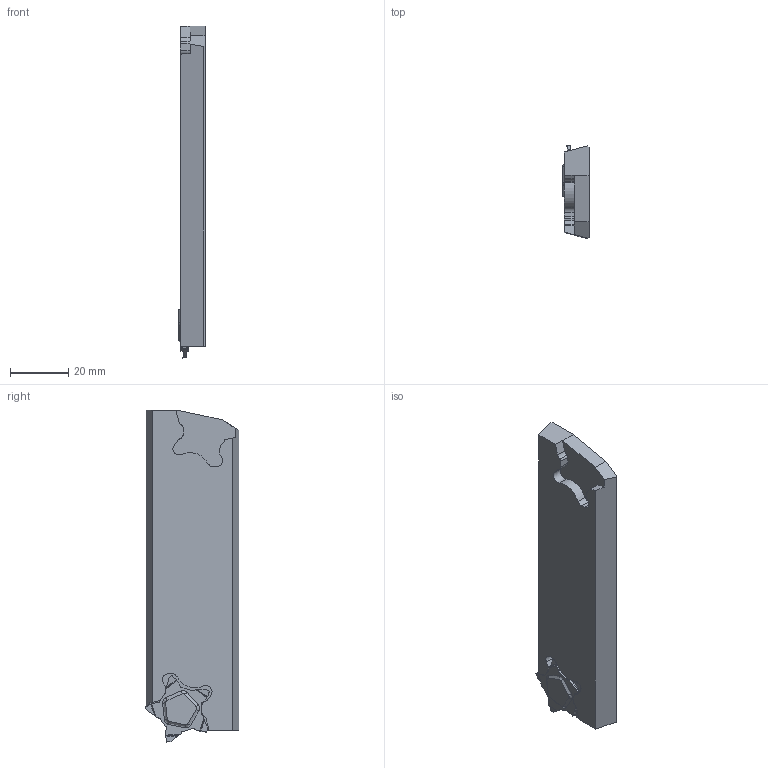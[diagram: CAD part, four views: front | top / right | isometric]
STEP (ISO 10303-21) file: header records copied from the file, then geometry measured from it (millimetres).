
FILE_DESCRIPTION(('CATIA V5 STEP','CAx-IF Rec.Pracs.--- Model Styling and Organization---1.2---2011-12-15'),'2;1');
FILE_NAME('I:\isr\design\admin8\users\farid_a\2301674.stp','2013-07-11T05:24:34+00:00',('none'),('none'),'CATIA Version 5 Release 21 SP 5 (IN-10)','CATIA V5 STEP AP214','none');
FILE_SCHEMA(('AUTOMOTIVE_DESIGN { 1 0 10303 214 1 1 1 1 }'));
Length unit declared in the file: millimetre
Products named in the file (1): 60957412_0  PCHBR 32-24L
Bounding box: 9 x 32.07 x 114 mm (x, y, z)
Volume: 26017.6 mm3; surface area: 9466.7 mm2
Topology: 2 solids, 2 shells, 219 faces, 798 edges, 585 vertices
Faces by surface type: plane 83, bspline 65, cylinder 51, revolution 20
Entity records: 25213 total; most frequent: CARTESIAN_POINT 19234, ORIENTED_EDGE 1576, EDGE_CURVE 788, DIRECTION 705, VERTEX_POINT 575, B_SPLINE_CURVE_WITH_KNOTS 376, VECTOR 289, LINE 289
